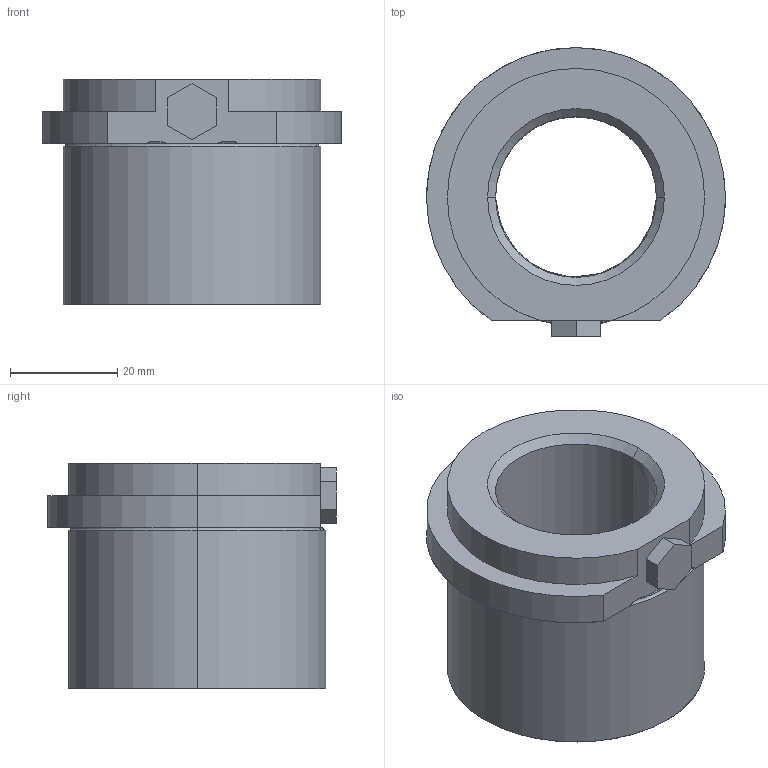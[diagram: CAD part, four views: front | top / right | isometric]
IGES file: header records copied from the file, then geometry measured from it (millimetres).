
Start section: START RECORD GO HERE.
Global section: file name: 740-30.igs; native system: DASSAULT SYSTEMES CATIA V5 R20 - www.3ds.com; preprocessor: CATIA Version 5 Release 20 ; author: Utente; organization: NB04-ASUS; date: 20210118.203711; units: millimetre
Bounding box: 55.8 x 53.9 x 42 mm (x, y, z)
Surface area: 13969 mm2 (no closed solid volume)
Topology: 0 solids, 0 shells, 35 faces, 174 edges, 174 vertices
Faces by surface type: revolution 21, plane 14
